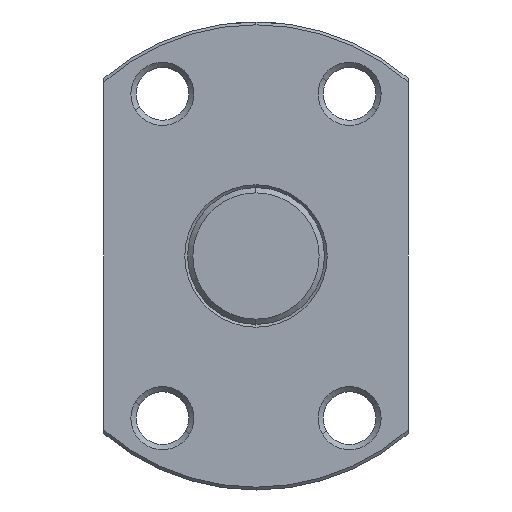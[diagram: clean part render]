
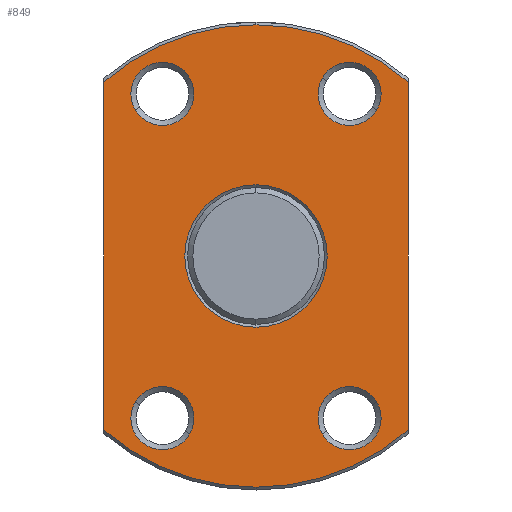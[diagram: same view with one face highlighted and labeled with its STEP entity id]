
A CAD part, left-side view. The second image highlights one B-rep face of the part: STEP entity #849.
In plain terms, the highlighted planar face has unit normal (-1, 0, 0).
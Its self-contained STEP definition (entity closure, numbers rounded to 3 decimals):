
#351=VERTEX_POINT('',#978);
#361=EDGE_CURVE('',#773,#841,#989,.T.);
#365=EDGE_CURVE('',#841,#773,#993,.T.);
#389=VERTEX_POINT('',#1020);
#401=EDGE_CURVE('',#491,#617,#1033,.T.);
#407=EDGE_CURVE('',#683,#389,#1040,.T.);
#423=EDGE_CURVE('',#471,#937,#1056,.T.);
#431=EDGE_CURVE('',#635,#351,#1065,.T.);
#433=EDGE_CURVE('',#935,#887,#1067,.T.);
#439=EDGE_CURVE('',#937,#471,#1073,.T.);
#449=EDGE_CURVE('',#859,#887,#1083,.T.);
#457=EDGE_CURVE('',#779,#935,#1091,.T.);
#471=VERTEX_POINT('',#1106);
#473=EDGE_CURVE('',#597,#707,#1108,.T.);
#491=VERTEX_POINT('',#1126);
#591=EDGE_CURVE('',#617,#491,#1247,.T.);
#597=VERTEX_POINT('',#1253);
#617=VERTEX_POINT('',#1274);
#623=EDGE_CURVE('',#859,#597,#1280,.T.);
#635=VERTEX_POINT('',#1295);
#683=VERTEX_POINT('',#1346);
#707=VERTEX_POINT('',#1374);
#721=EDGE_CURVE('',#351,#635,#1390,.T.);
#747=EDGE_CURVE('',#389,#683,#1424,.T.);
#773=VERTEX_POINT('',#1451);
#779=VERTEX_POINT('',#1458);
#791=EDGE_CURVE('',#779,#707,#1473,.T.);
#841=VERTEX_POINT('',#1526);
#849=ADVANCED_FACE('',(#1535,#1536,#1537,#1538,#1539,#1540),#1541,.T.);
#859=VERTEX_POINT('',#1552);
#887=VERTEX_POINT('',#1582);
#935=VERTEX_POINT('',#1636);
#937=VERTEX_POINT('',#1638);
#978=CARTESIAN_POINT('',(25.0,-10.338,12.506));
#989=CIRCLE('',#1691,6.084);
#993=CIRCLE('',#1696,6.084);
#1020=CARTESIAN_POINT('',(25.0,-10.338,-12.506));
#1033=CIRCLE('',#1750,2.7);
#1040=CIRCLE('',#1758,2.7);
#1056=CIRCLE('',#1783,2.7);
#1065=CIRCLE('',#1794,2.7);
#1067=CIRCLE('',#1797,19.762);
#1073=CIRCLE('',#1806,2.7);
#1083=LINE('',#1821,#1822);
#1091=CIRCLE('',#1831,19.762);
#1106=CARTESIAN_POINT('',(25.0,10.338,12.506));
#1108=CIRCLE('',#1851,19.762);
#1126=CARTESIAN_POINT('',(25.0,10.338,-12.506));
#1247=CIRCLE('',#2047,2.7);
#1253=CARTESIAN_POINT('',(25.0,0.,19.762));
#1274=CARTESIAN_POINT('',(25.0,5.662,-15.206));
#1280=CIRCLE('',#2105,19.762);
#1295=CARTESIAN_POINT('',(25.0,-5.662,15.206));
#1346=CARTESIAN_POINT('',(25.0,-5.662,-15.206));
#1374=CARTESIAN_POINT('',(25.0,-13.0,14.884));
#1390=CIRCLE('',#2267,2.7);
#1424=CIRCLE('',#2304,2.7);
#1451=CARTESIAN_POINT('',(25.0,0.,-6.084));
#1458=CARTESIAN_POINT('',(25.0,-13.0,-14.884));
#1473=LINE('',#2375,#2376);
#1526=CARTESIAN_POINT('',(25.0,0.0,6.084));
#1535=FACE_BOUND('',#2475,.T.);
#1536=FACE_OUTER_BOUND('',#2476,.T.);
#1537=FACE_BOUND('',#2477,.T.);
#1538=FACE_BOUND('',#2478,.T.);
#1539=FACE_BOUND('',#2479,.T.);
#1540=FACE_BOUND('',#2480,.T.);
#1541=PLANE('',#2481);
#1552=CARTESIAN_POINT('',(25.0,13.0,14.884));
#1582=CARTESIAN_POINT('',(25.0,13.0,-14.884));
#1636=CARTESIAN_POINT('',(25.0,0.,-19.762));
#1638=CARTESIAN_POINT('',(25.0,5.662,15.206));
#1691=AXIS2_PLACEMENT_3D('',#2690,#2691,#2692);
#1696=AXIS2_PLACEMENT_3D('',#2693,#2694,#2695);
#1750=AXIS2_PLACEMENT_3D('',#2747,#2748,#2749);
#1758=AXIS2_PLACEMENT_3D('',#2758,#2759,#2760);
#1783=AXIS2_PLACEMENT_3D('',#2775,#2776,#2777);
#1794=AXIS2_PLACEMENT_3D('',#2789,#2790,#2791);
#1797=AXIS2_PLACEMENT_3D('',#2792,#2793,#2794);
#1806=AXIS2_PLACEMENT_3D('',#2801,#2802,#2803);
#1821=CARTESIAN_POINT('',(25.0,13.0,4.941));
#1822=VECTOR('',#2811,1.0);
#1831=AXIS2_PLACEMENT_3D('',#2812,#2813,#2814);
#1851=AXIS2_PLACEMENT_3D('',#2829,#2830,#2831);
#2047=AXIS2_PLACEMENT_3D('',#3023,#3024,#3025);
#2105=AXIS2_PLACEMENT_3D('',#3046,#3047,#3048);
#2267=AXIS2_PLACEMENT_3D('',#3187,#3188,#3189);
#2304=AXIS2_PLACEMENT_3D('',#3250,#3251,#3252);
#2375=CARTESIAN_POINT('',(25.0,-13.0,4.941));
#2376=VECTOR('',#3305,1.0);
#2475=EDGE_LOOP('',(#3365,#3366));
#2476=EDGE_LOOP('',(#3367,#3368,#3369,#3370,#3371,#3372));
#2477=EDGE_LOOP('',(#3373,#3374));
#2478=EDGE_LOOP('',(#3375,#3376));
#2479=EDGE_LOOP('',(#3377,#3378));
#2480=EDGE_LOOP('',(#3379,#3380));
#2481=AXIS2_PLACEMENT_3D('',#3381,#3382,#3383);
#2690=CARTESIAN_POINT('',(25.0,0.0,0.0));
#2691=DIRECTION('',(1.0,0.0,0.));
#2692=DIRECTION('',(0.,0.0,1.0));
#2693=CARTESIAN_POINT('',(25.0,0.0,0.0));
#2694=DIRECTION('',(1.0,0.0,0.));
#2695=DIRECTION('',(0.,0.0,1.0));
#2747=CARTESIAN_POINT('',(25.0,8.0,-13.856));
#2748=DIRECTION('',(1.0,0.0,0.));
#2749=DIRECTION('',(0.,-0.866,-0.5));
#2758=CARTESIAN_POINT('',(25.0,-8.0,-13.856));
#2759=DIRECTION('',(1.0,0.0,0.));
#2760=DIRECTION('',(0.,-0.866,0.5));
#2775=CARTESIAN_POINT('',(25.0,8.0,13.856));
#2776=DIRECTION('',(1.0,0.0,0.));
#2777=DIRECTION('',(0.,0.866,-0.5));
#2789=CARTESIAN_POINT('',(25.0,-8.0,13.856));
#2790=DIRECTION('',(1.0,0.0,0.));
#2791=DIRECTION('',(0.,0.866,0.5));
#2792=CARTESIAN_POINT('',(25.0,0.0,0.0));
#2793=DIRECTION('',(1.0,0.0,-0.0));
#2794=DIRECTION('',(0.0,0.0,1.0));
#2801=CARTESIAN_POINT('',(25.0,8.0,13.856));
#2802=DIRECTION('',(1.0,0.0,0.));
#2803=DIRECTION('',(0.,0.866,-0.5));
#2811=DIRECTION('',(0.,0.0,-1.0));
#2812=CARTESIAN_POINT('',(25.0,0.0,0.0));
#2813=DIRECTION('',(1.0,0.0,-0.0));
#2814=DIRECTION('',(0.0,0.0,1.0));
#2829=CARTESIAN_POINT('',(25.0,0.0,0.0));
#2830=DIRECTION('',(1.0,0.0,-0.0));
#2831=DIRECTION('',(0.0,0.0,1.0));
#3023=CARTESIAN_POINT('',(25.0,8.0,-13.856));
#3024=DIRECTION('',(1.0,0.0,0.));
#3025=DIRECTION('',(0.,-0.866,-0.5));
#3046=CARTESIAN_POINT('',(25.0,0.0,0.0));
#3047=DIRECTION('',(1.0,0.0,-0.0));
#3048=DIRECTION('',(0.0,0.0,1.0));
#3187=CARTESIAN_POINT('',(25.0,-8.0,13.856));
#3188=DIRECTION('',(1.0,0.0,0.));
#3189=DIRECTION('',(0.,0.866,0.5));
#3250=CARTESIAN_POINT('',(25.0,-8.0,-13.856));
#3251=DIRECTION('',(1.0,0.0,0.));
#3252=DIRECTION('',(0.,-0.866,0.5));
#3305=DIRECTION('',(0.,0.0,1.0));
#3365=ORIENTED_EDGE('',*,*,#365,.T.);
#3366=ORIENTED_EDGE('',*,*,#361,.T.);
#3367=ORIENTED_EDGE('',*,*,#449,.T.);
#3368=ORIENTED_EDGE('',*,*,#433,.F.);
#3369=ORIENTED_EDGE('',*,*,#457,.F.);
#3370=ORIENTED_EDGE('',*,*,#791,.T.);
#3371=ORIENTED_EDGE('',*,*,#473,.F.);
#3372=ORIENTED_EDGE('',*,*,#623,.F.);
#3373=ORIENTED_EDGE('',*,*,#747,.T.);
#3374=ORIENTED_EDGE('',*,*,#407,.T.);
#3375=ORIENTED_EDGE('',*,*,#591,.T.);
#3376=ORIENTED_EDGE('',*,*,#401,.T.);
#3377=ORIENTED_EDGE('',*,*,#423,.T.);
#3378=ORIENTED_EDGE('',*,*,#439,.T.);
#3379=ORIENTED_EDGE('',*,*,#431,.T.);
#3380=ORIENTED_EDGE('',*,*,#721,.T.);
#3381=CARTESIAN_POINT('',(25.0,0.0,9.881));
#3382=DIRECTION('',(-1.0,-0.0,0.));
#3383=DIRECTION('',(0.,0.0,-1.0));
